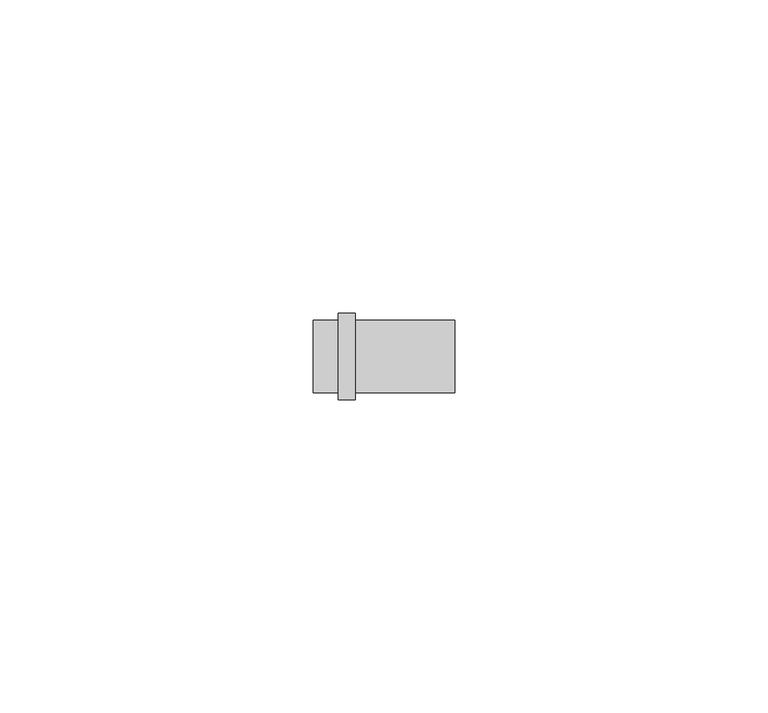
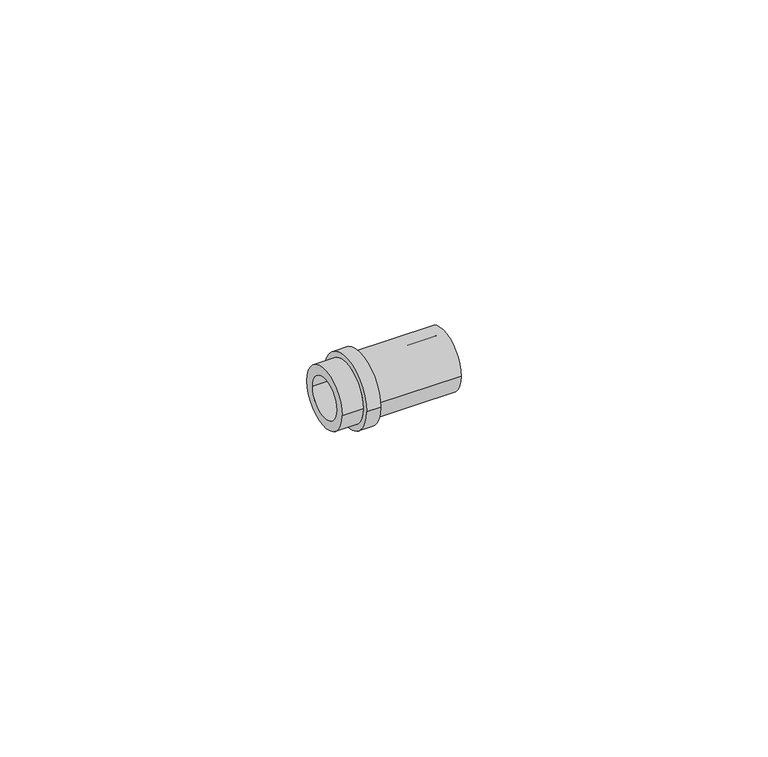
"""IFC4 building model written with IfcOpenShell, lengths in millimetres: pipe fitting geometry, FASTLOC_Blanking plug LX : FSL Bp LX PL."""

from ifc_helpers import new_model, si_unit, frame, origin, place, context, project, spatial, polyline, circle_curve, source, transform, mapped, element, save
from ifc_brep_helpers import plane_surface, cylinder_surface, revolved_surface, advanced_brep


def pipe_fitting_0da8c5a8(model_context):
    return source(origin(), model_context, "Body", "AdvancedBrep", [
        advanced_brep(
        [(0.0, 3.95, 0.0), (0.0, -3.95, 0.0), (22.6, -3.95, 0.0), (22.6, 3.95, 0.0), (4.0, 5.8, 0.0), (4.0, -5.8, 0.0), (0.0, -5.8, 0.0), (0.0, 5.8, 0.0), (6.7, 6.9, 0.0), (6.7, -6.9, 0.0), (4.0, -6.9, 0.0), (4.0, 6.9, 0.0), (22.6, 5.8, 0.0), (22.6, -5.8, 0.0), (6.7, -5.8, 0.0), (6.7, 5.8, 0.0)],
        [
            (0, 1, circle_curve(frame((0.0, 0.0, 0.0), z_axis=(-1.0, 0.0, 0.0), x_axis=(0.0, -1.0, 0.0)), 3.95)),
            (1, 2),
            (2, 3, circle_curve(frame((22.6, 0.0, 0.0), z_axis=(1.0, 0.0, 0.0), x_axis=(0.0, -1.0, 0.0)), 3.95)),
            (3, 0),
            (4, 5, circle_curve(frame((4.0, 0.0, 0.0), z_axis=(-1.0, 0.0, 0.0), x_axis=(0.0, -1.0, 0.0)), 5.8)),
            (5, 6),
            (6, 7, circle_curve(frame((0.0, 0.0, 0.0), z_axis=(1.0, 0.0, 0.0), x_axis=(0.0, -1.0, 0.0)), 5.8)),
            (7, 4),
            (8, 9, circle_curve(frame((6.7, 0.0, 0.0), z_axis=(-1.0, 0.0, 0.0), x_axis=(0.0, -1.0, 0.0)), 6.9)),
            (9, 10),
            (10, 11, circle_curve(frame((4.0, 0.0, 0.0), z_axis=(1.0, 0.0, 0.0), x_axis=(0.0, -1.0, 0.0)), 6.9)),
            (11, 8),
            (12, 13, circle_curve(frame((22.6, 0.0, 0.0), z_axis=(-1.0, 0.0, 0.0), x_axis=(0.0, -1.0, 0.0)), 5.8)),
            (13, 14),
            (14, 15, circle_curve(frame((6.7, 0.0, 0.0), z_axis=(1.0, 0.0, 0.0), x_axis=(0.0, -1.0, 0.0)), 5.8)),
            (15, 12),
            (1, 0, circle_curve(frame((0.0, 0.0, 0.0), z_axis=(-1.0, 0.0, 0.0), x_axis=(0.0, 1.0, 0.0)), 3.95)),
            (3, 2, circle_curve(frame((22.6, 0.0, 0.0), z_axis=(1.0, 0.0, 0.0), x_axis=(0.0, 1.0, 0.0)), 3.95)),
            (6, 7, circle_curve(frame((0.0, 0.0, 0.0), z_axis=(-1.0, 0.0, 0.0), x_axis=(0.0, 1.0, 0.0)), 5.8)),
            (5, 4, circle_curve(frame((4.0, 0.0, 0.0), z_axis=(-1.0, 0.0, 0.0), x_axis=(0.0, 1.0, 0.0)), 5.8)),
            (10, 11, circle_curve(frame((4.0, 0.0, 0.0), z_axis=(-1.0, 0.0, 0.0), x_axis=(0.0, 1.0, 0.0)), 6.9)),
            (9, 8, circle_curve(frame((6.7, 0.0, 0.0), z_axis=(-1.0, 0.0, 0.0), x_axis=(0.0, 1.0, 0.0)), 6.9)),
            (14, 15, circle_curve(frame((6.7, 0.0, 0.0), z_axis=(-1.0, 0.0, 0.0), x_axis=(0.0, 1.0, 0.0)), 5.8)),
            (13, 12, circle_curve(frame((22.6, 0.0, 0.0), z_axis=(-1.0, 0.0, 0.0), x_axis=(0.0, 1.0, 0.0)), 5.8)),
        ],
        [
            revolved_surface(polyline([(22.6, -3.95, 0.0), (0.0, -3.95, 0.0)]), (0.0, 0.0, 0.0), (1.0, 0.0, 0.0)),
            cylinder_surface(frame((0.0, 0.0, 0.0), z_axis=(1.0, 0.0, 0.0), x_axis=(0.0, -1.0, 0.0)), 5.8),
            cylinder_surface(frame((0.0, 0.0, 0.0), z_axis=(1.0, 0.0, 0.0), x_axis=(0.0, -1.0, 0.0)), 6.9),
            revolved_surface(polyline([(22.6, 3.95, 0.0), (0.0, 3.95, 0.0)]), (0.0, 0.0, 0.0), (1.0, 0.0, 0.0)),
            plane_surface(frame((0.0, 0.0, 0.0), z_axis=(-1.0, 0.0, 0.0), x_axis=(0.0, 1.0, 0.0))),
            cylinder_surface(frame((0.0, 0.0, 0.0), z_axis=(1.0, 0.0, 0.0), x_axis=(0.0, 1.0, 0.0)), 5.8),
            plane_surface(frame((4.0, 0.0, 0.0), z_axis=(-1.0, 0.0, 0.0), x_axis=(0.0, 1.0, 0.0))),
            cylinder_surface(frame((0.0, 0.0, 0.0), z_axis=(1.0, 0.0, 0.0), x_axis=(0.0, 1.0, 0.0)), 6.9),
            plane_surface(frame((6.7, 0.0, 0.0), z_axis=(1.0, 0.0, 0.0), x_axis=(0.0, 1.0, 0.0))),
            plane_surface(frame((22.6, 0.0, 0.0), z_axis=(1.0, 0.0, 0.0), x_axis=(0.0, 1.0, 0.0))),
        ],
        [
            (0, [[1, 2, 3, 4]]),
            (1, [[5, 6, 7, 8]]),
            (2, [[9, 10, 11, 12]]),
            (1, [[13, 14, 15, 16]]),
            (3, [[17, -4, 18, -2]]),
            (4, [[19, -7], [-17, -1]]),
            (5, [[20, -8, -19, -6]]),
            (6, [[21, -11], [-20, -5]]),
            (7, [[22, -12, -21, -10]]),
            (8, [[-22, -9], [23, -15]]),
            (5, [[24, -16, -23, -14]]),
            (9, [[-24, -13], [-18, -3]]),
        ],
    ),
    ])


if __name__ == "__main__":
    model = new_model("IFC4")
    model_context = context("Model", 3, world=origin())
    ifc_project = project(units=[si_unit("LENGTHUNIT", "METRE", prefix="MILLI")], contexts=[model_context])
    site = spatial("IfcSite", under=ifc_project)
    building = spatial("IfcBuilding", under=site)
    placement = place(None, origin())
    pipe_fitting_shape = pipe_fitting_0da8c5a8(model_context)
    element("IfcPipeFitting", 1, ObjectType="FASTLOC_Blanking plug LX : FSL Bp LX PL", at=placement, inside=building, context=model_context, shape_type="MappedRepresentation", body=[
        mapped(pipe_fitting_shape, transform((0.0, 0.0, 0.0), x_axis=(1.0, 0.0, 0.0), y_axis=(0.0, 1.0, 0.0), z_axis=(0.0, 0.0, 1.0))),
    ])
    save(model, "model.ifc")
